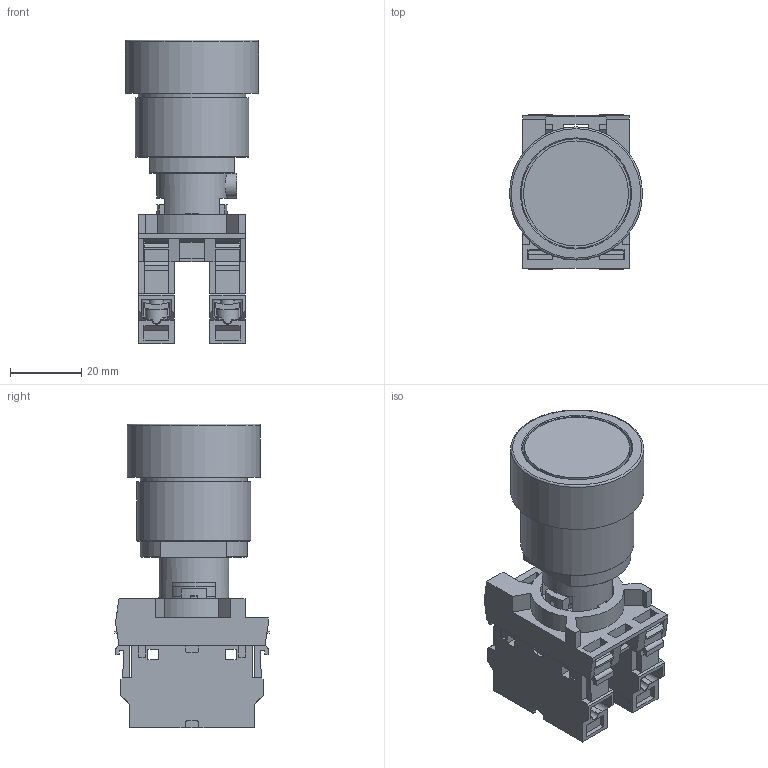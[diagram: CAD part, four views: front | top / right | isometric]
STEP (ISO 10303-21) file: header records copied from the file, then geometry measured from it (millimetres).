
FILE_DESCRIPTION((''),'2;1');
FILE_NAME('\\192.168.5.25\cortem_klient\INVENTOR БАЗА МОДЕЛЕЙ\Актуальная база моделей для отдела продаж\Элементы управления и индикации\КГВ01\КГВ01C11.stp','2019-04-09T16:07:38',('A.S.Kozlov'),(''),'Autodesk Inventor 2012','Autodesk Inventor 2012','');
FILE_SCHEMA(('CONFIG_CONTROL_DESIGN'));
Length unit declared in the file: millimetre
Products named in the file (1): КГВ01C11_Внешний контур_1
Bounding box: 37.4 x 43.3 x 85.4 mm (x, y, z)
Surface area: 29725.2 mm2 (no closed solid volume)
Topology: 0 solids, 39 shells, 451 faces, 1837 edges, 1361 vertices
Faces by surface type: plane 374, cylinder 55, cone 21, torus 1
Full cylindrical faces by diameter (mm): 3.85 x1, 4 x4, 6.2 x4, 6.5 x4, 7 x1, 7.95 x1, 10.376 x1, 12 x1, 14.7 x1, 15.7 x2, 15.8 x1, 19.8 x1, 29.5 x1, 30.2 x1, 30.75 x1, 32 x1, 37.4 x1
Entity records: 19637 total; most frequent: CARTESIAN_POINT 4259, ORIENTED_EDGE 2857, DIRECTION 2849, EDGE_CURVE 1782, VECTOR 1361, LINE 1361, VERTEX_POINT 1339, AXIS2_PLACEMENT_3D 744
